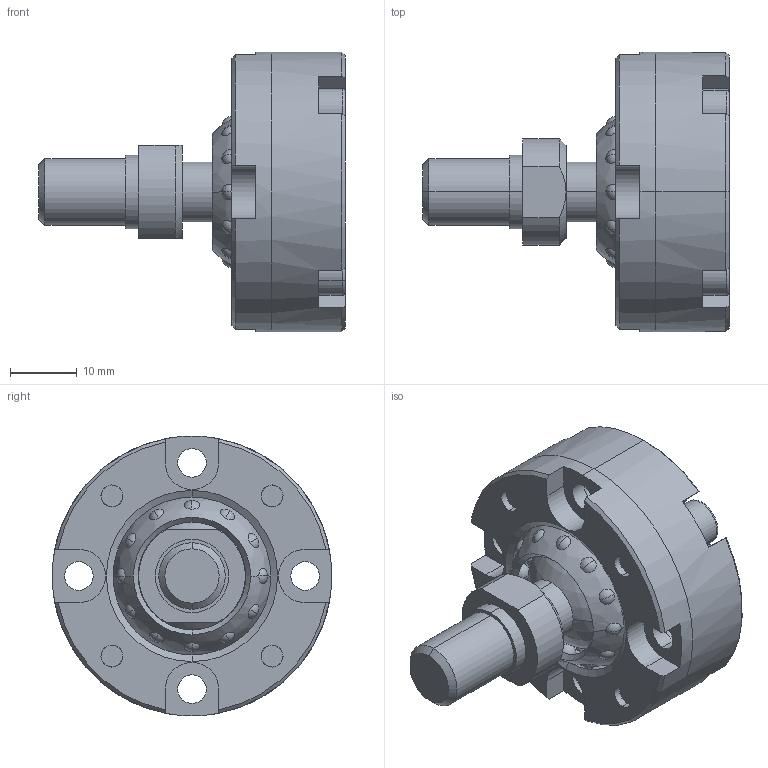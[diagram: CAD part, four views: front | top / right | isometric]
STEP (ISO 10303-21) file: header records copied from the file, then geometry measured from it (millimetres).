
FILE_DESCRIPTION (( 'STEP AP203' ), '1' );
FILE_NAME ('SR JOINT - SRJ012C.STEP', '2010-06-01T19:35:37', ( 'render' ), ( '' ), 'SwSTEP 2.0', 'SolidWorks 2009', '' );
FILE_SCHEMA (( 'CONFIG_CONTROL_DESIGN' ));
Length unit declared in the file: millimetre
Products named in the file (1): SR JOINT - SRJ012C
Bounding box: 46 x 42 x 42 mm (x, y, z)
Surface area: 13336.4 mm2 (no closed solid volume)
Topology: 0 solids, 13 shells, 302 faces, 832 edges, 565 vertices
Faces by surface type: sphere 122, plane 82, cylinder 55, cone 35, torus 8
Entity records: 9881 total; most frequent: DIRECTION 1932, CARTESIAN_POINT 1736, ORIENTED_EDGE 1448, AXIS2_PLACEMENT_3D 848, EDGE_CURVE 801, VERTEX_POINT 552, CIRCLE 545, EDGE_LOOP 415
